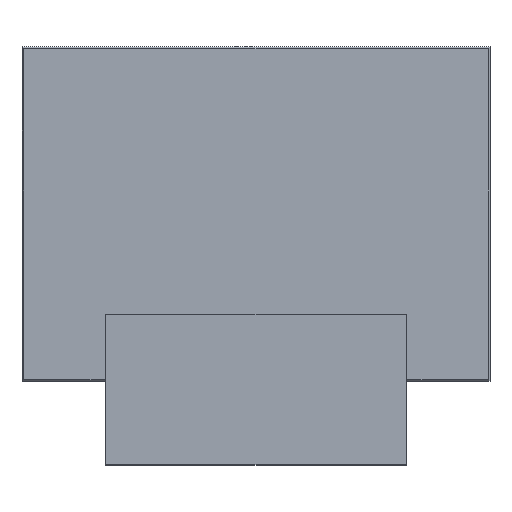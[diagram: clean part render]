
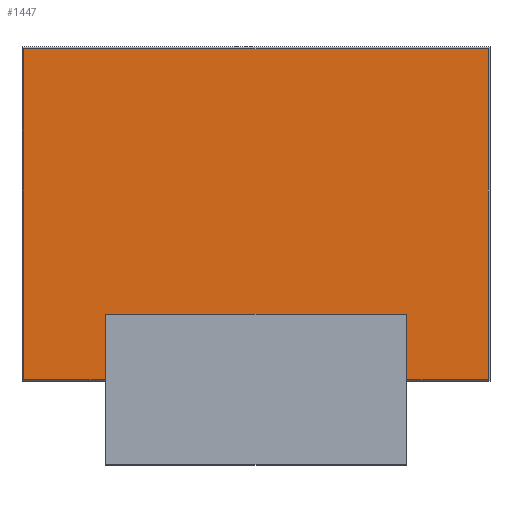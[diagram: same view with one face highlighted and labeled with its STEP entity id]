
A CAD part, top view. The second image highlights one B-rep face of the part: STEP entity #1447.
In plain terms, the highlighted planar face has unit normal (0, 0, 1).
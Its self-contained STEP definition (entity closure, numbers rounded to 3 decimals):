
#81 = DIRECTION ( 'NONE',  ( 1., 0., 0. ) ) ;
#107 = CARTESIAN_POINT ( 'NONE',  ( -20.5, 0.5, 7.5 ) ) ;
#111 = EDGE_CURVE ( 'NONE', #1436, #1436, #1196, .T. ) ;
#201 = ORIENTED_EDGE ( 'NONE', *, *, #322, .T. ) ;
#203 = CARTESIAN_POINT ( 'NONE',  ( -70., 99.5, 7.5 ) ) ;
#220 = ORIENTED_EDGE ( 'NONE', *, *, #949, .T. ) ;
#242 = CARTESIAN_POINT ( 'NONE',  ( -22.5, 10.5, 7.5 ) ) ;
#247 = ORIENTED_EDGE ( 'NONE', *, *, #1996, .T. ) ;
#316 = VECTOR ( 'NONE', #1653, 1000. ) ;
#322 = EDGE_CURVE ( 'NONE', #2623, #2623, #2752, .T. ) ;
#350 = DIRECTION ( 'NONE',  ( 1., 0., 0. ) ) ;
#389 = ORIENTED_EDGE ( 'NONE', *, *, #2466, .T. ) ;
#390 = CARTESIAN_POINT ( 'NONE',  ( -69.5, 99.5, 7.5 ) ) ;
#484 = CARTESIAN_POINT ( 'NONE',  ( 25., 10.5, 7.5 ) ) ;
#505 = ORIENTED_EDGE ( 'NONE', *, *, #2782, .T. ) ;
#520 = CARTESIAN_POINT ( 'NONE',  ( 69.5, 99.5, 7.5 ) ) ;
#650 = CARTESIAN_POINT ( 'NONE',  ( -20.5, 9., 7.5 ) ) ;
#652 = ORIENTED_EDGE ( 'NONE', *, *, #2125, .T. ) ;
#671 = DIRECTION ( 'NONE',  ( 0., 0., -1. ) ) ;
#689 = VERTEX_POINT ( 'NONE', #2962 ) ;
#721 = DIRECTION ( 'NONE',  ( 1., 0., 0. ) ) ;
#726 = EDGE_LOOP ( 'NONE', ( #986 ) ) ;
#772 = VERTEX_POINT ( 'NONE', #1068 ) ;
#795 = FACE_OUTER_BOUND ( 'NONE', #2472, .T. ) ;
#799 = EDGE_CURVE ( 'NONE', #2675, #948, #2074, .T. ) ;
#936 = FACE_BOUND ( 'NONE', #1030, .T. ) ;
#948 = VERTEX_POINT ( 'NONE', #390 ) ;
#949 = EDGE_CURVE ( 'NONE', #1031, #2675, #1491, .T. ) ;
#985 = VECTOR ( 'NONE', #2364, 1000. ) ;
#986 = ORIENTED_EDGE ( 'NONE', *, *, #111, .T. ) ;
#993 = LINE ( 'NONE', #1709, #985 ) ;
#1023 = CARTESIAN_POINT ( 'NONE',  ( 0., 0., 7.5 ) ) ;
#1030 = EDGE_LOOP ( 'NONE', ( #201 ) ) ;
#1031 = VERTEX_POINT ( 'NONE', #1968 ) ;
#1068 = CARTESIAN_POINT ( 'NONE',  ( 20.5, 0.5, 7.5 ) ) ;
#1076 = VECTOR ( 'NONE', #1809, 1000. ) ;
#1152 = LINE ( 'NONE', #650, #1213 ) ;
#1196 = CIRCLE ( 'NONE', #1710, 2.5 ) ;
#1203 = DIRECTION ( 'NONE',  ( 0., 1., 0. ) ) ;
#1213 = VECTOR ( 'NONE', #1348, 1000. ) ;
#1280 = DIRECTION ( 'NONE',  ( 0., 0., -1. ) ) ;
#1335 = ORIENTED_EDGE ( 'NONE', *, *, #2865, .T. ) ;
#1348 = DIRECTION ( 'NONE',  ( 0., 1., 0. ) ) ;
#1436 = VERTEX_POINT ( 'NONE', #2604 ) ;
#1447 = ADVANCED_FACE ( 'NONE', ( #936, #795, #1960 ), #1979, .T. ) ;
#1491 = LINE ( 'NONE', #2414, #1560 ) ;
#1530 = CARTESIAN_POINT ( 'NONE',  ( -25., 10.5, 7.5 ) ) ;
#1532 = VECTOR ( 'NONE', #1610, 1000. ) ;
#1560 = VECTOR ( 'NONE', #1203, 1000. ) ;
#1610 = DIRECTION ( 'NONE',  ( 0., -1., 0. ) ) ;
#1653 = DIRECTION ( 'NONE',  ( 1., 0., 0. ) ) ;
#1709 = CARTESIAN_POINT ( 'NONE',  ( 20.5, 0., 7.5 ) ) ;
#1710 = AXIS2_PLACEMENT_3D ( 'NONE', #484, #671, #721 ) ;
#1723 = VECTOR ( 'NONE', #350, 1000. ) ;
#1796 = CARTESIAN_POINT ( 'NONE',  ( 70., 0.5, 7.5 ) ) ;
#1809 = DIRECTION ( 'NONE',  ( 1., 0., 0. ) ) ;
#1818 = AXIS2_PLACEMENT_3D ( 'NONE', #1530, #1280, #81 ) ;
#1960 = FACE_BOUND ( 'NONE', #726, .T. ) ;
#1967 = VERTEX_POINT ( 'NONE', #2729 ) ;
#1968 = CARTESIAN_POINT ( 'NONE',  ( 69.5, 0.5, 7.5 ) ) ;
#1979 = PLANE ( 'NONE',  #2160 ) ;
#1996 = EDGE_CURVE ( 'NONE', #1967, #689, #3006, .T. ) ;
#2015 = VECTOR ( 'NONE', #2797, 1000. ) ;
#2074 = LINE ( 'NONE', #203, #2015 ) ;
#2125 = EDGE_CURVE ( 'NONE', #2758, #2357, #2833, .T. ) ;
#2138 = ORIENTED_EDGE ( 'NONE', *, *, #799, .T. ) ;
#2160 = AXIS2_PLACEMENT_3D ( 'NONE', #1023, #2919, #2450 ) ;
#2357 = VERTEX_POINT ( 'NONE', #107 ) ;
#2364 = DIRECTION ( 'NONE',  ( 0., -1., 0. ) ) ;
#2414 = CARTESIAN_POINT ( 'NONE',  ( 69.5, 100., 7.5 ) ) ;
#2450 = DIRECTION ( 'NONE',  ( 1., 0., 0. ) ) ;
#2466 = EDGE_CURVE ( 'NONE', #2357, #1967, #1152, .T. ) ;
#2472 = EDGE_LOOP ( 'NONE', ( #247, #2844, #505, #220, #2138, #1335, #652, #389 ) ) ;
#2527 = CARTESIAN_POINT ( 'NONE',  ( 20., 9.5, 7.5 ) ) ;
#2604 = CARTESIAN_POINT ( 'NONE',  ( 27.5, 10.5, 7.5 ) ) ;
#2623 = VERTEX_POINT ( 'NONE', #242 ) ;
#2675 = VERTEX_POINT ( 'NONE', #520 ) ;
#2729 = CARTESIAN_POINT ( 'NONE',  ( -20.5, 9.5, 7.5 ) ) ;
#2735 = LINE ( 'NONE', #1796, #1076 ) ;
#2750 = CARTESIAN_POINT ( 'NONE',  ( -69.5, 0., 7.5 ) ) ;
#2752 = CIRCLE ( 'NONE', #1818, 2.5 ) ;
#2758 = VERTEX_POINT ( 'NONE', #2925 ) ;
#2782 = EDGE_CURVE ( 'NONE', #772, #1031, #2735, .T. ) ;
#2797 = DIRECTION ( 'NONE',  ( -1., 0., 0. ) ) ;
#2833 = LINE ( 'NONE', #3050, #316 ) ;
#2844 = ORIENTED_EDGE ( 'NONE', *, *, #3049, .T. ) ;
#2865 = EDGE_CURVE ( 'NONE', #948, #2758, #2968, .T. ) ;
#2919 = DIRECTION ( 'NONE',  ( 0., 0., 1. ) ) ;
#2925 = CARTESIAN_POINT ( 'NONE',  ( -69.5, 0.5, 7.5 ) ) ;
#2962 = CARTESIAN_POINT ( 'NONE',  ( 20.5, 9.5, 7.5 ) ) ;
#2968 = LINE ( 'NONE', #2750, #1532 ) ;
#3006 = LINE ( 'NONE', #2527, #1723 ) ;
#3049 = EDGE_CURVE ( 'NONE', #689, #772, #993, .T. ) ;
#3050 = CARTESIAN_POINT ( 'NONE',  ( -20., 0.5, 7.5 ) ) ;
